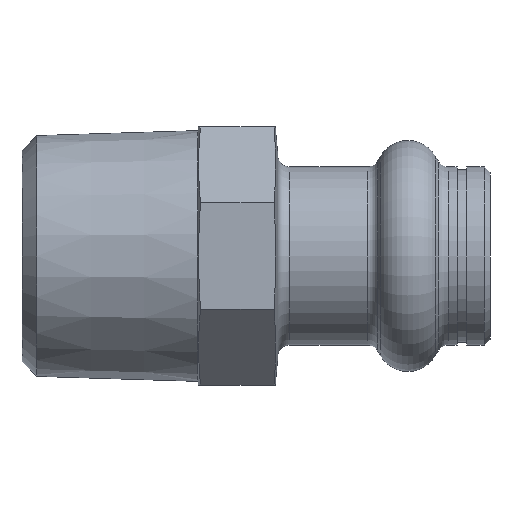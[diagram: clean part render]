
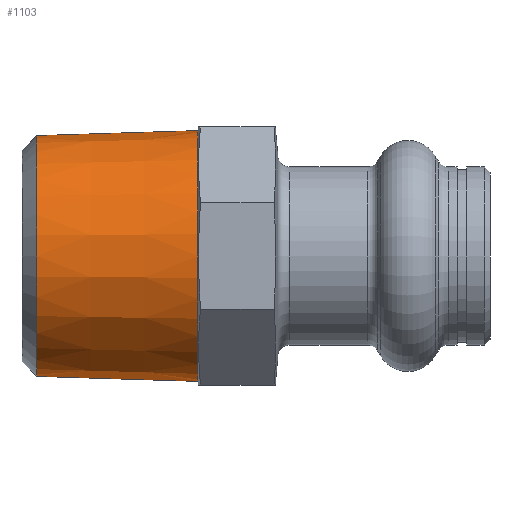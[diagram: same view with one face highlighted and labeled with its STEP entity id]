
A CAD part, left-side view. The second image highlights one B-rep face of the part: STEP entity #1103.
In plain terms, the highlighted conical face has half-angle 1.78 degrees and reference radius 10.689 mm.
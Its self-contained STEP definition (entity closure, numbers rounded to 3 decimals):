
#27 = DIRECTION ( 'NONE',  ( 0., 0., -1. ) ) ;
#48 = VERTEX_POINT ( 'NONE', #923 ) ;
#167 = EDGE_CURVE ( 'NONE', #731, #48, #1144, .T. ) ;
#191 = AXIS2_PLACEMENT_3D ( 'NONE', #1672, #834, #1810 ) ;
#217 = CIRCLE ( 'NONE', #930, 10.689 ) ;
#472 = CARTESIAN_POINT ( 'NONE',  ( 0., 24.9, -10.689 ) ) ;
#501 = ORIENTED_EDGE ( 'NONE', *, *, #762, .F. ) ;
#551 = DIRECTION ( 'NONE',  ( 0., 0., -1. ) ) ;
#553 = AXIS2_PLACEMENT_3D ( 'NONE', #1548, #1260, #551 ) ;
#604 = VERTEX_POINT ( 'NONE', #887 ) ;
#667 = ORIENTED_EDGE ( 'NONE', *, *, #1161, .F. ) ;
#708 = VECTOR ( 'NONE', #1609, 1000. ) ;
#724 = CARTESIAN_POINT ( 'NONE',  ( 0., 38.638, -10.262 ) ) ;
#731 = VERTEX_POINT ( 'NONE', #724 ) ;
#762 = EDGE_CURVE ( 'NONE', #604, #1233, #790, .T. ) ;
#790 = LINE ( 'NONE', #1328, #708 ) ;
#834 = DIRECTION ( 'NONE',  ( 0., -1., 0. ) ) ;
#854 = EDGE_LOOP ( 'NONE', ( #501, #1627, #922, #667 ) ) ;
#867 = DIRECTION ( 'NONE',  ( 0., -1., 0. ) ) ;
#887 = CARTESIAN_POINT ( 'NONE',  ( 0., 38.638, 10.262 ) ) ;
#922 = ORIENTED_EDGE ( 'NONE', *, *, #167, .T. ) ;
#923 = CARTESIAN_POINT ( 'NONE',  ( 0., 24.9, -10.689 ) ) ;
#930 = AXIS2_PLACEMENT_3D ( 'NONE', #1702, #867, #27 ) ;
#1051 = EDGE_CURVE ( 'NONE', #604, #731, #1436, .T. ) ;
#1103 = ADVANCED_FACE ( 'NONE', ( #1757 ), #1703, .T. ) ;
#1144 = LINE ( 'NONE', #472, #1184 ) ;
#1161 = EDGE_CURVE ( 'NONE', #1233, #48, #217, .T. ) ;
#1184 = VECTOR ( 'NONE', #1449, 1000. ) ;
#1233 = VERTEX_POINT ( 'NONE', #1669 ) ;
#1260 = DIRECTION ( 'NONE',  ( 0., -1., 0. ) ) ;
#1328 = CARTESIAN_POINT ( 'NONE',  ( 0., 24.9, 10.689 ) ) ;
#1436 = CIRCLE ( 'NONE', #191, 10.262 ) ;
#1449 = DIRECTION ( 'NONE',  ( 0., -1., -0.031 ) ) ;
#1548 = CARTESIAN_POINT ( 'NONE',  ( 0., 24.9, 0. ) ) ;
#1609 = DIRECTION ( 'NONE',  ( 0., -1., 0.031 ) ) ;
#1627 = ORIENTED_EDGE ( 'NONE', *, *, #1051, .T. ) ;
#1669 = CARTESIAN_POINT ( 'NONE',  ( 0., 24.9, 10.689 ) ) ;
#1672 = CARTESIAN_POINT ( 'NONE',  ( 0., 38.638, 0. ) ) ;
#1702 = CARTESIAN_POINT ( 'NONE',  ( 0., 24.9, 0. ) ) ;
#1703 = CONICAL_SURFACE ( 'NONE', #553, 10.689, 0.031 ) ;
#1757 = FACE_OUTER_BOUND ( 'NONE', #854, .T. ) ;
#1810 = DIRECTION ( 'NONE',  ( 0., 0., -1. ) ) ;
